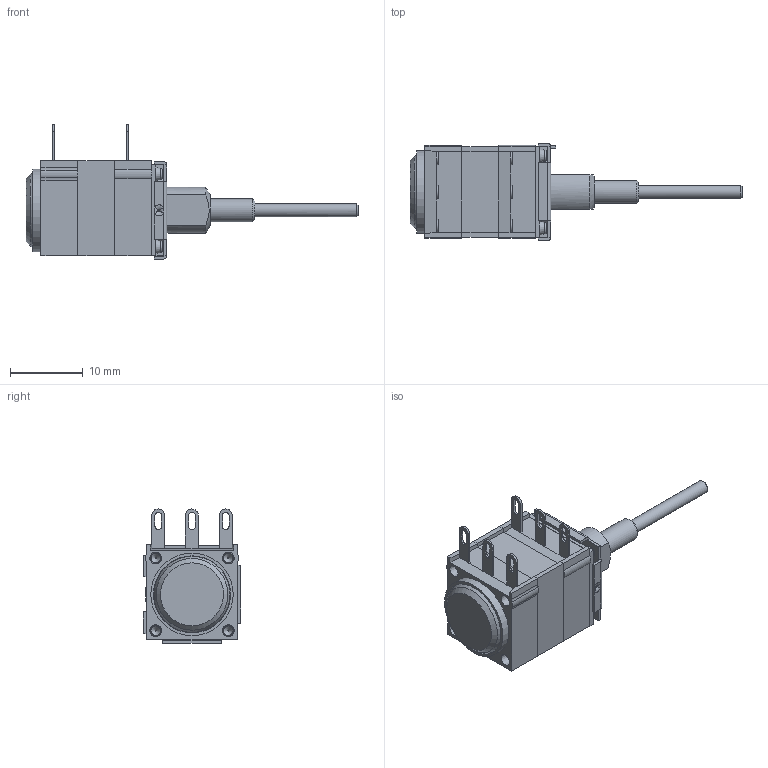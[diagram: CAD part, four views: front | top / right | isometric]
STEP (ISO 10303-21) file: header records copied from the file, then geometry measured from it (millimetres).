
FILE_DESCRIPTION(/* description */ ('Unknown'),/* implementation_level */ '2;1');
FILE_NAME(/* name */ 'P11S3AACCRY00103MA',/* time_stamp */ '2017-11-30T17:49:06+01:00',/* author */ ('Unknown'),/* organization */ ('Unknown'),/* preprocessor_version */ 'ST-DEVELOPER v16.7',/* originating_system */ 'DEX',/* authorisation */ $);
FILE_SCHEMA (('CONFIG_CONTROL_DESIGN'));
Length unit declared in the file: millimetre
Products named in the file (16): P11S3AACCRY00103MA; 3657260; 3657150; M1-Y00-103; 3650993; bande à chas; 3650540; MECA SPACER; 3657530; M3-Y00-103; 3657851; ergot_A_9H; 0121014-P11; 0150001-P11; 0150008-P11
Assembly tree (21 placements, depth 3):
  P11S3AACCRY00103MA
    3657260
    3657150
    M1-Y00-103
      3650993
      bande à chas
    3650540
    MECA SPACER
      3657530
    M3-Y00-103
      3650993
      bande à chas
    3657851
    ergot_A_9H
    0121014-P11  x3
    0150001-P11  x4
    0150008-P11
Bounding box: 45.71 x 13.4 x 18.45 mm (x, y, z)
Volume: 1995.8 mm3; surface area: 4649 mm2
Topology: 14 solids, 14 shells, 718 faces, 1862 edges, 1217 vertices
Faces by surface type: plane 398, cylinder 201, cone 85, bspline 20, torus 14
Full cylindrical faces by diameter (mm): 0.996 x8, 1.3 x20, 1.5 x18, 1.55 x4, 1.8 x2, 3 x1, 3.17 x1, 3.2 x1, 3.26 x1, 3.7 x1, 4.1 x2, 5.25 x2, 6.4 x2, 7.42 x1, 7.44 x2, 8.4 x1, 9.65 x1, 10.2 x1, 10.6 x2, 11.35 x2
Entity records: 19464 total; most frequent: CARTESIAN_POINT 3673, DIRECTION 3191, ORIENTED_EDGE 2902, EDGE_CURVE 1451, AXIS2_PLACEMENT_3D 1185, VERTEX_POINT 1017, EDGE_LOOP 890, FACE_BOUND 890
